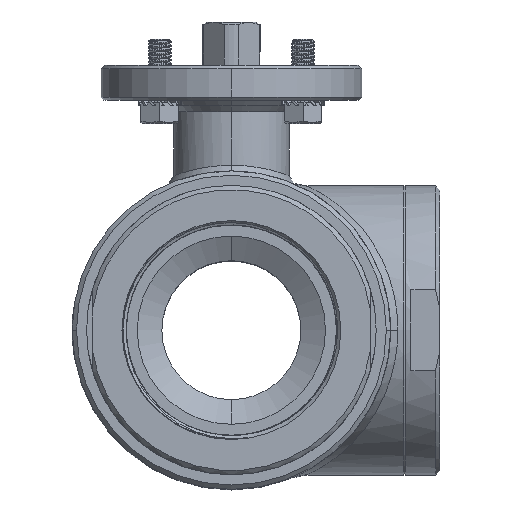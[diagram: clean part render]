
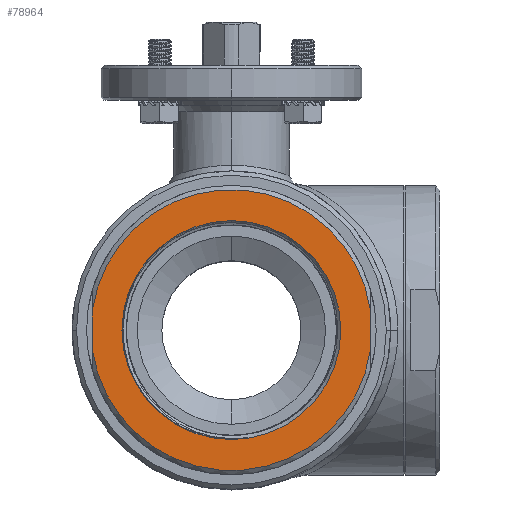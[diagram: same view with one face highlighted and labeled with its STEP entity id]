
A CAD part, top view. The second image highlights one B-rep face of the part: STEP entity #78964.
In plain terms, the highlighted planar face has unit normal (0, 0, 1).
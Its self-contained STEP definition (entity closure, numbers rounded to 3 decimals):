
#9502=DIRECTION('',(0.,1.,0.));
#9503=VECTOR('',#9502,13.892);
#9504=CARTESIAN_POINT('',(-48.,-6.946,
72.));
#9505=LINE('',#9504,#9503);
#9509=DIRECTION('',(0.,1.,0.));
#9510=VECTOR('',#9509,13.892);
#9511=CARTESIAN_POINT('',(48.,-6.946,72.));
#9512=LINE('',#9511,#9510);
#9516=CARTESIAN_POINT('',(0.,0.,72.));
#9517=DIRECTION('',(0.,0.,-1.));
#9518=DIRECTION('',(0.,1.,0.));
#9519=AXIS2_PLACEMENT_3D('',#9516,#9517,#9518);
#9524=CARTESIAN_POINT('',(0.,0.,72.));
#9525=DIRECTION('',(0.,0.,-1.));
#9526=DIRECTION('',(0.,-1.,0.));
#9527=AXIS2_PLACEMENT_3D('',#9524,#9525,#9526);
#9532=CARTESIAN_POINT('',(0.,0.,72.));
#9533=DIRECTION('',(0.,0.,1.));
#9534=DIRECTION('',(-0.99,-0.143,0.));
#9535=AXIS2_PLACEMENT_3D('',#9532,#9533,#9534);
#9602=CARTESIAN_POINT('',(0.,0.,72.));
#9603=DIRECTION('',(0.,0.,1.));
#9604=DIRECTION('',(0.99,0.143,0.));
#9605=AXIS2_PLACEMENT_3D('',#9602,#9603,#9604);
#9615=CARTESIAN_POINT('',(-48.,-6.946,
72.));
#9634=CARTESIAN_POINT('',(-48.,6.946,72.));
#9651=CARTESIAN_POINT('',(48.,-6.946,72.));
#9666=CARTESIAN_POINT('',(48.,6.946,72.));
#69176=CARTESIAN_POINT('',(0.,37.8,72.));
#69177=CARTESIAN_POINT('',(0.,-37.8,72.));
#69178=VERTEX_POINT('',#69176);
#69179=VERTEX_POINT('',#69177);
#69181=VERTEX_POINT('',#9615);
#69184=VERTEX_POINT('',#9651);
#69187=VERTEX_POINT('',#9666);
#69190=VERTEX_POINT('',#9634);
#78945=CARTESIAN_POINT('',(0.,0.,72.));
#78946=DIRECTION('',(0.,0.,1.));
#78947=DIRECTION('',(0.,1.,0.));
#78948=AXIS2_PLACEMENT_3D('',#78945,#78946,#78947);
#78949=PLANE('',#78948);
#78951=ORIENTED_EDGE('',*,*,#78950,.F.);
#78953=ORIENTED_EDGE('',*,*,#78952,.T.);
#78955=ORIENTED_EDGE('',*,*,#78954,.F.);
#78957=ORIENTED_EDGE('',*,*,#78956,.F.);
#78958=EDGE_LOOP('',(#78951,#78953,#78955,#78957));
#78959=FACE_OUTER_BOUND('',#78958,.F.);
#78960=ORIENTED_EDGE('',*,*,#78363,.F.);
#78961=ORIENTED_EDGE('',*,*,#78939,.F.);
#78962=EDGE_LOOP('',(#78960,#78961));
#78963=FACE_BOUND('',#78962,.F.);
#78964=ADVANCED_FACE('',(#78959,#78963),#78949,.T.);
#9520=CIRCLE('',#9519,37.8);
#9528=CIRCLE('',#9527,37.8);
#9536=CIRCLE('',#9535,48.5);
#9606=CIRCLE('',#9605,48.5);
#78363=EDGE_CURVE('',#69178,#69179,#9520,.T.);
#78939=EDGE_CURVE('',#69179,#69178,#9528,.T.);
#78950=EDGE_CURVE('',#69181,#69184,#9536,.T.);
#78952=EDGE_CURVE('',#69181,#69190,#9505,.T.);
#78954=EDGE_CURVE('',#69187,#69190,#9606,.T.);
#78956=EDGE_CURVE('',#69184,#69187,#9512,.T.);
